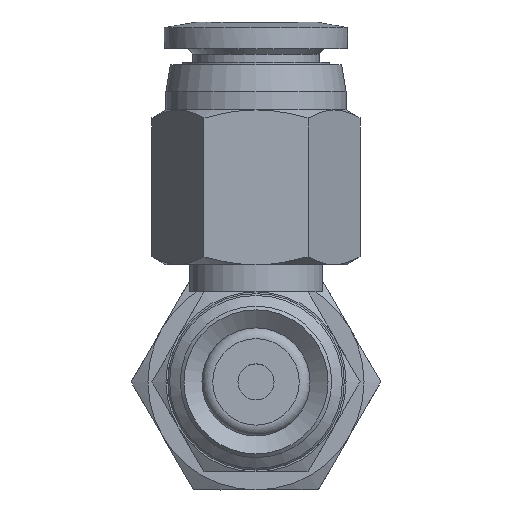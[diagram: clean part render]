
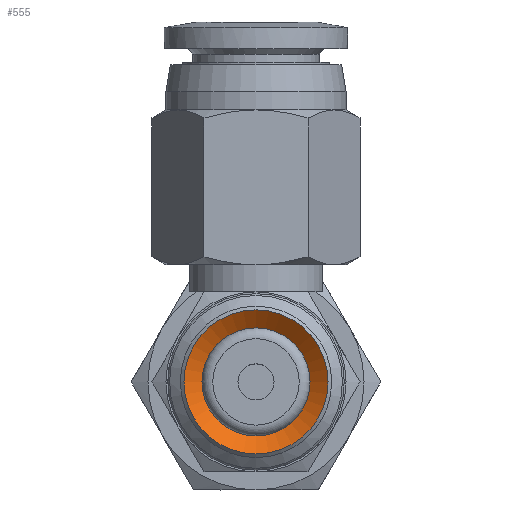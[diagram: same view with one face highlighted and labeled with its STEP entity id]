
A CAD part, front view. The second image highlights one B-rep face of the part: STEP entity #555.
In plain terms, the highlighted conical face has half-angle 52 degrees and reference radius 3 mm.
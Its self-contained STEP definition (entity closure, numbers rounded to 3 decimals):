
#555=ADVANCED_FACE('',(#858,#859),#860,.F.);
#858=FACE_BOUND('',#1260,.T.);
#859=FACE_OUTER_BOUND('',#1261,.T.);
#860=CONICAL_SURFACE('',#1262,3.0,0.908);
#1260=EDGE_LOOP('',(#2324));
#1261=EDGE_LOOP('',(#2325));
#1262=AXIS2_PLACEMENT_3D('',#2326,#2327,#2328);
#2324=ORIENTED_EDGE('',*,*,#2893,.F.);
#2325=ORIENTED_EDGE('',*,*,#2892,.T.);
#2326=CARTESIAN_POINT('',(0.0,7.741,0.));
#2327=DIRECTION('',(-0.0,-1.0,0.));
#2328=DIRECTION('',(0.0,0.,-1.0));
#2892=EDGE_CURVE('',#3316,#3316,#3317,.T.);
#2893=EDGE_CURVE('',#3318,#3318,#3319,.T.);
#3316=VERTEX_POINT('',#4236);
#3317=CIRCLE('',#4237,4.0);
#3318=VERTEX_POINT('',#4238);
#3319=CIRCLE('',#4239,3.0);
#4236=CARTESIAN_POINT('',(0.0,6.96,-4.0));
#4237=AXIS2_PLACEMENT_3D('',#4992,#4993,#4994);
#4238=CARTESIAN_POINT('',(0.0,7.741,-3.0));
#4239=AXIS2_PLACEMENT_3D('',#4995,#4996,#4997);
#4992=CARTESIAN_POINT('',(0.0,6.96,0.0));
#4993=DIRECTION('',(0.0,-1.0,0.));
#4994=DIRECTION('',(0.0,0.,-1.0));
#4995=CARTESIAN_POINT('',(0.0,7.741,0.));
#4996=DIRECTION('',(0.0,-1.0,0.));
#4997=DIRECTION('',(0.0,0.,-1.0));
